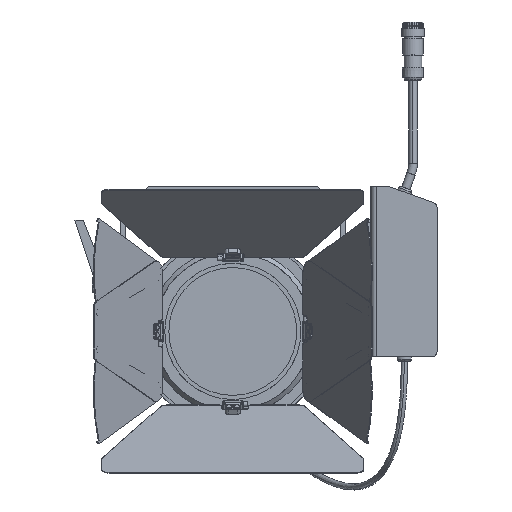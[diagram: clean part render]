
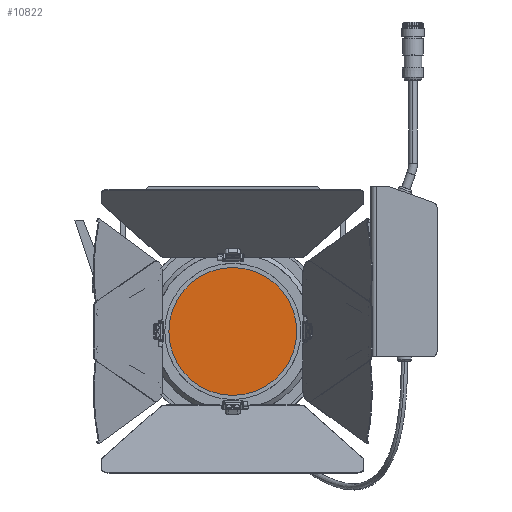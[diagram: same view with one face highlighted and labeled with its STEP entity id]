
A CAD part, top view. The second image highlights one B-rep face of the part: STEP entity #10822.
In plain terms, the highlighted planar face has unit normal (0, 0, 1) as drawn and (0, 0, -1) by its records, which use the part's own axes.
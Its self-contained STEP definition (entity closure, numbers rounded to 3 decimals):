
#1086 = EDGE_CURVE ( 'NONE', #29541, #4137, #27913, .T. ) ;
#1516 = CARTESIAN_POINT ( 'NONE',  ( -62., 0., -18.1 ) ) ;
#1599 = CIRCLE ( 'NONE', #29487, 62. ) ;
#2749 = DIRECTION ( 'NONE',  ( 0., 0., -1. ) ) ;
#4137 = VERTEX_POINT ( 'NONE', #1516 ) ;
#5245 = CARTESIAN_POINT ( 'NONE',  ( 62., 0., -18.1 ) ) ;
#5690 = CARTESIAN_POINT ( 'NONE',  ( 0., 0., -18.1 ) ) ;
#6421 = DIRECTION ( 'NONE',  ( 0., 0., -1. ) ) ;
#10056 = CARTESIAN_POINT ( 'NONE',  ( 0., 0., -18.1 ) ) ;
#10822 = ADVANCED_FACE ( 'NONE', ( #33779 ), #23875, .T. ) ;
#11485 = DIRECTION ( 'NONE',  ( -1., 0., 0. ) ) ;
#12318 = EDGE_CURVE ( 'NONE', #4137, #29541, #1599, .T. ) ;
#13132 = DIRECTION ( 'NONE',  ( 0., 0., -1. ) ) ;
#13593 = ORIENTED_EDGE ( 'NONE', *, *, #1086, .T. ) ;
#15039 = CARTESIAN_POINT ( 'NONE',  ( 0., 0., -18.1 ) ) ;
#16385 = ORIENTED_EDGE ( 'NONE', *, *, #12318, .T. ) ;
#17849 = DIRECTION ( 'NONE',  ( -1., 0., 0. ) ) ;
#21081 = AXIS2_PLACEMENT_3D ( 'NONE', #5690, #2749, #11485 ) ;
#22109 = DIRECTION ( 'NONE',  ( -1., 0., 0. ) ) ;
#23875 = PLANE ( 'NONE',  #27970 ) ;
#27913 = CIRCLE ( 'NONE', #21081, 62. ) ;
#27970 = AXIS2_PLACEMENT_3D ( 'NONE', #15039, #6421, #17849 ) ;
#29487 = AXIS2_PLACEMENT_3D ( 'NONE', #10056, #13132, #22109 ) ;
#29541 = VERTEX_POINT ( 'NONE', #5245 ) ;
#33779 = FACE_OUTER_BOUND ( 'NONE', #36912, .T. ) ;
#36912 = EDGE_LOOP ( 'NONE', ( #13593, #16385 ) ) ;
